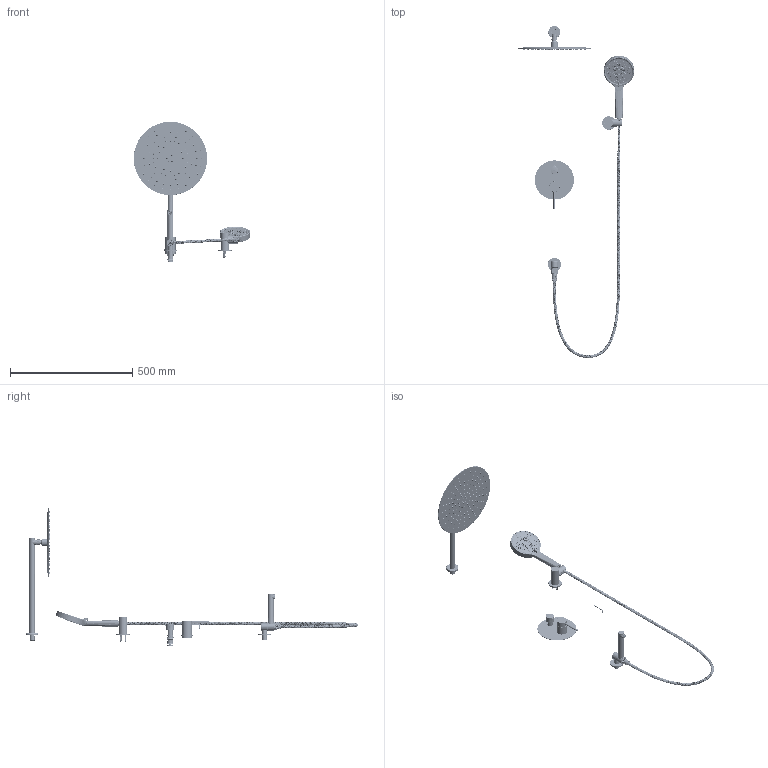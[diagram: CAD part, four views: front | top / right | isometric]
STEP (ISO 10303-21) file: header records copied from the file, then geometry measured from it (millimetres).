
FILE_DESCRIPTION((''),'2;1');
FILE_NAME('OM-88939017_ASM','2024-10-30T08:39:01',('GL-JISHU1'),(''),'CREO PARAMETRIC BY PTC INC, 2021063','CREO PARAMETRIC BY PTC INC, 2021063','');
FILE_SCHEMA(('AUTOMOTIVE_DESIGN { 1 0 10303 214 1 1 1 1 }'));
Products named in the file (78): 3CX-001019-BAA; 5TT-001037-ACR; 3FX-001023-MAA-R01; 3FX-001023-MAA-R02; 3FX-001023-MAA-R03; 3FX-001023-MAA-R04; 3FX-001023-MAA-R05; 3FX-001023-MAA-R06; 3FX-001023-MAA_ASM; 5TT-001087-ACR; 3YG-001009-AJJ; 3ZG-010027-MCR; 5MB-001108-KCR; 5BS-181013-1-ACR; 5BS-181013-2-ACR; 3LS-001077-JAA; 3LS-001064-JAA; 3SN-001001-MCR; 181013000_ASM; 3JQ-001248-NAA; 3BS-261001A-HCR; 3JQ-001144-NAA; 3SS-001002-KAA; 3JQ-001196-NAA_AF0; OM-88939017-1_ASM; 3ZB-001030-KCR; 220001; 400-10001; 400-20001; 400-30001; 400-40001; 3TG-001042-KCR_ASM; 300-YDP_4; 0326-JD_6; 0620-WXD_6; 0620-LM_6; 0620-NMQ_6; 0326-QT_6_1; 0620-GLD_6; 300-YDPZ_ASM_4_ASM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
Assembly tree (208 placements, depth 4):
  OM-88939017_ASM
    OM-88939017-1_ASM
      3CX-001019-BAA
      5TT-001037-ACR
      3FX-001023-MAA_ASM
        3FX-001023-MAA-R01
        3FX-001023-MAA-R02
        3FX-001023-MAA-R03
        3FX-001023-MAA-R04
        3FX-001023-MAA-R05
        3FX-001023-MAA-R06
      5TT-001087-ACR
      3YG-001009-AJJ
      3ZG-010027-MCR
      5MB-001108-KCR
      181013000_ASM
        5BS-181013-1-ACR
        5BS-181013-2-ACR
        3LS-001077-JAA
        3LS-001064-JAA
        3SN-001001-MCR
      3JQ-001248-NAA
      3BS-261001A-HCR
      3LS-001064-JAA
      3SN-001001-MCR
      3JQ-001144-NAA
      3SS-001002-KAA
      3JQ-001196-NAA_AF0
    3ZB-001030-KCR
    220001
    3TG-001042-KCR_ASM
      400-10001
      400-20001
      400-30001
      400-40001
    3DP-001006-JCR_ASM
      300-YDPZ_ASM_4_ASM
        300-YDP_4
        0326-JD_6  x126
        0620-WXD_6
        0620-LM_6
        0620-NMQ_6
        0326-QT_6_1
        0620-GLD_6
    5SZ-001061-ACR_ASM
      5DZ-001075-ACR_ASM
        4DZ-001074-AJJ
        4JT-001300-AJJ
      3CX-001045-BAA
      4SJ-001090-MJJ
      5SZ-001025-ACR_ASM
        4TT-001062-AJJ
        4SZ-001025-AJJ
      5JT-001069-ACR
      3JQ-001095-NAA
      WZJ_ASM
        5WK-001008-ACR
        3WD-001051-MAA
        3JQ-001530-NAA
      3LS-001068-JAA  x2
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Bounding box: 476.49 x 1357.45 x 574.6 mm (x, y, z)
Volume: 961567.1 mm3; surface area: 710264.8 mm2
Topology: 199 solids, 202 shells, 13595 faces, 33866 edges, 21372 vertices
Faces by surface type: plane 3513, bspline 3247, cylinder 2885, torus 1930, cone 1864, sphere 115, extrusion 27, revolution 14
Entity records: 520214 total; most frequent: CARTESIAN_POINT 255973, ORIENTED_EDGE 50446, DIRECTION 44914, EDGE_CURVE 25223, AXIS2_PLACEMENT_3D 19418, VERTEX_POINT 16251, CIRCLE 11343, EDGE_LOOP 10962
